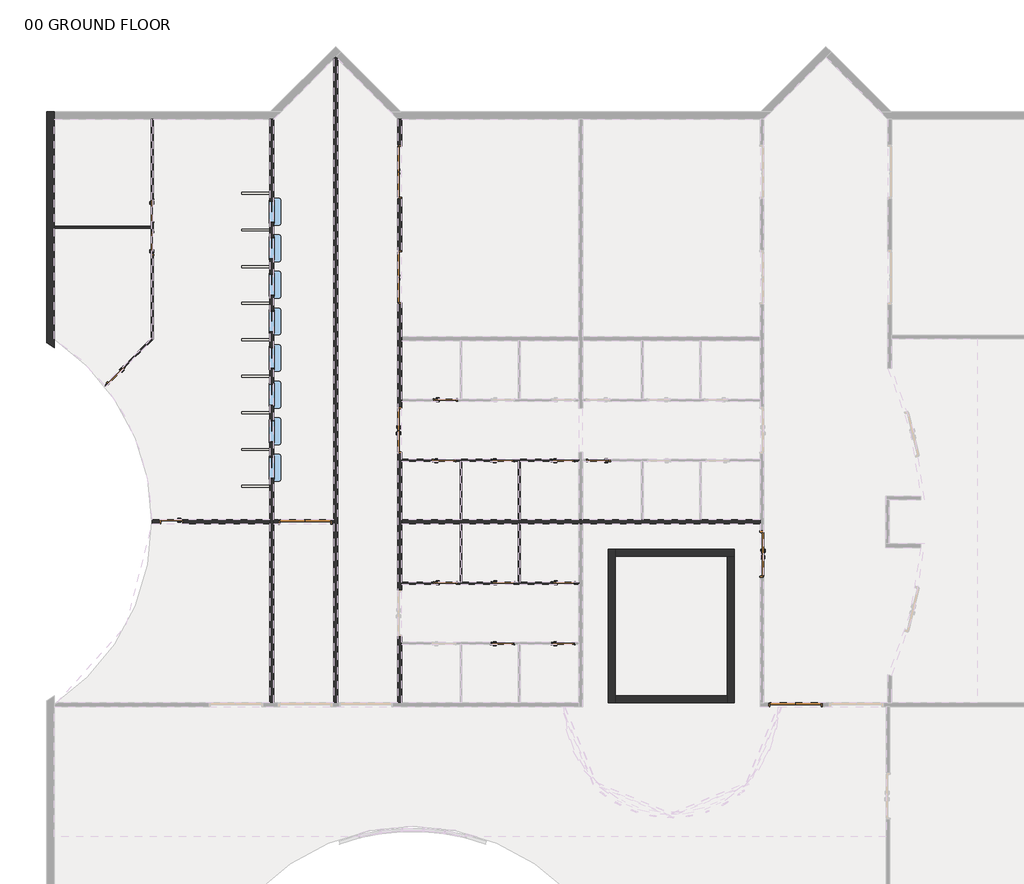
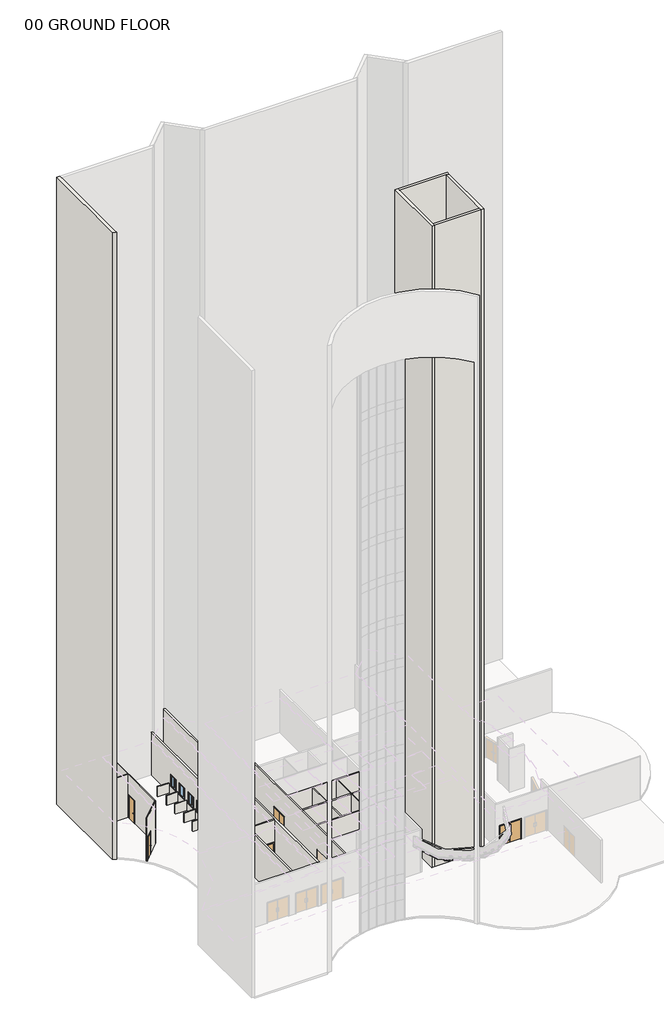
# One storey, part 13 of 33: 28 walls, 20 doors, 8 windows.
"""IFC4 building model written with IfcOpenShell, lengths in millimetres."""

from ifc_helpers import new_model, si_unit, frame, origin, origin_with_axes, place, context, project, spatial, polyline, circle_curve, outline, extrude, faceted_brep, transform, mapped, element, save
from ifc_brep_helpers import plane_surface, revolved_surface, advanced_brep
from components import door_2f250f70, door_b3a27a16, door_979b1b8c, door_f8b587be, door_b23f3af8, pass_thru_4x3_19d81059

model = new_model("IFC4")

# Units and contexts
model_context = context("Model", 3, world=origin())
ifc_project = project(units=[si_unit("LENGTHUNIT", "METRE", prefix="MILLI")], contexts=[model_context])

# Site, building, storey
site = spatial("IfcSite", under=ifc_project)
building = spatial("IfcBuilding", under=site)
storey = spatial("IfcBuildingStorey", under=building, Name="00 GROUND FLOOR", Elevation=0.0)

# Doors
placement = place(None, origin())
door_shape = door_2f250f70(model_context)
element("IfcDoor", 1, ObjectType="Door-Passage-Double-Flush : 72\" x 82\"", at=placement, inside=storey, context=model_context, shape_type="MappedRepresentation", body=[
    mapped(door_shape, transform((14556.3400257, 20729.575, 0.0), x_axis=(0.0, 1.0, 0.0), y_axis=(-1.0, 0.0, 0.0), z_axis=(0.0, 0.0, 1.0))),
])
element("IfcDoor", 2, ObjectType="Door-Passage-Double-Flush : 72\" x 82\"", at=placement, inside=storey, context=model_context, shape_type="MappedRepresentation", body=[
    mapped(door_shape, transform((29628.0650257, 15571.7875, 0.0), x_axis=(0.0, -1.0, 0.0), y_axis=(1.0, 0.0, 0.0), z_axis=(0.0, 0.0, 1.0))),
])
door_2_shape = door_b3a27a16(model_context)
element("IfcDoor", 3, ObjectType="Door-Passage-Double-Flush-Dbl_Acting : 84\" x 84\"", at=placement, inside=storey, context=model_context, shape_type="MappedRepresentation", body=[
    mapped(door_2_shape, transform((31033.0025257, 9293.225, 0.0), x_axis=(1.0, 0.0, 0.0), y_axis=(0.0, 1.0, 0.0), z_axis=(0.0, 0.0, 1.0))),
])
element("IfcDoor", 4, ObjectType="Door-Passage-Double-Flush-Dbl_Acting : 84\" x 84\"", at=placement, inside=storey, context=model_context, shape_type="MappedRepresentation", body=[
    mapped(door_2_shape, transform((14556.3400257, 31499.175, 0.0), x_axis=(0.0, 1.0, 0.0), y_axis=(-1.0, 0.0, 0.0), z_axis=(0.0, 0.0, 1.0))),
])
element("IfcDoor", 5, ObjectType="Door-Passage-Double-Flush-Dbl_Acting : 84\" x 84\"", at=placement, inside=storey, context=model_context, shape_type="MappedRepresentation", body=[
    mapped(door_2_shape, transform((14556.3400257, 27101.8, 0.0), x_axis=(0.0, 1.0, 0.0), y_axis=(-1.0, 0.0, 0.0), z_axis=(0.0, 0.0, 1.0))),
])
element("IfcDoor", 6, ObjectType="Door-Passage-Double-Flush-Dbl_Acting : 84\" x 84\"", at=placement, inside=storey, context=model_context, shape_type="MappedRepresentation", body=[
    mapped(door_2_shape, transform((10620.375, 16913.225, 0.0), x_axis=(1.0, 0.0, 0.0), y_axis=(0.0, 1.0, 0.0), z_axis=(0.0, 0.0, 1.0))),
])
door_3_shape = door_979b1b8c(model_context)
element("IfcDoor", 7, ObjectType="Door-Passage-Single-Flush : 36\" x 96\"", at=placement, inside=storey, context=model_context, shape_type="MappedRepresentation", body=[
    mapped(door_3_shape, transform((16456.5775257, 14357.35, 0.0), x_axis=(1.0, 0.0, 0.0), y_axis=(0.0, 1.0, 0.0), z_axis=(0.0, 0.0, 1.0))),
])
element("IfcDoor", 8, ObjectType="Door-Passage-Single-Flush : 36\" x 96\"", at=placement, inside=storey, context=model_context, shape_type="MappedRepresentation", body=[
    mapped(door_3_shape, transform((18855.2900257, 14357.35, 0.0), x_axis=(1.0, 0.0, 0.0), y_axis=(0.0, 1.0, 0.0), z_axis=(0.0, 0.0, 1.0))),
])
element("IfcDoor", 9, ObjectType="Door-Passage-Single-Flush : 36\" x 96\"", at=placement, inside=storey, context=model_context, shape_type="MappedRepresentation", body=[
    mapped(door_3_shape, transform((21373.0650257, 14357.35, 0.0), x_axis=(1.0, 0.0, 0.0), y_axis=(0.0, 1.0, 0.0), z_axis=(0.0, 0.0, 1.0))),
])
element("IfcDoor", 10, ObjectType="Door-Passage-Single-Flush : 36\" x 96\"", at=placement, inside=storey, context=model_context, shape_type="MappedRepresentation", body=[
    mapped(door_3_shape, transform((16456.5775257, 21977.35, 0.0), x_axis=(1.0, 0.0, 0.0), y_axis=(0.0, 1.0, 0.0), z_axis=(0.0, 0.0, 1.0))),
])
element("IfcDoor", 11, ObjectType="Door-Passage-Single-Flush : 36\" x 96\"", at=placement, inside=storey, context=model_context, shape_type="MappedRepresentation", body=[
    mapped(door_3_shape, transform((22830.3900257, 19481.8, 0.0), x_axis=(-1.0, 0.0, 0.0), y_axis=(0.0, -1.0, 0.0), z_axis=(0.0, 0.0, 1.0))),
])
element("IfcDoor", 12, ObjectType="Door-Passage-Single-Flush : 36\" x 96\"", at=placement, inside=storey, context=model_context, shape_type="MappedRepresentation", body=[
    mapped(door_3_shape, transform((2731.3607977, 23031.2061406, 0.0), x_axis=(-0.7071067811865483, -0.7071067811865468, 0.0), y_axis=(0.7071067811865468, -0.7071067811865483, 0.0), z_axis=(0.0, 0.0, 1.0))),
])
element("IfcDoor", 13, ObjectType="Door-Passage-Single-Flush : 36\" x 96\"", at=placement, inside=storey, context=model_context, shape_type="MappedRepresentation", body=[
    mapped(door_3_shape, transform((4255.0599132, 28508.325, 0.0), x_axis=(0.0, 1.0, 0.0), y_axis=(-1.0, 0.0, 0.0), z_axis=(0.0, 0.0, 1.0))),
])
door_4_shape = door_f8b587be(model_context)
element("IfcDoor", 14, ObjectType="Door-Passage-Single-Flush : 36\" x 96\"", at=placement, inside=storey, context=model_context, shape_type="MappedRepresentation", body=[
    mapped(door_4_shape, transform((18836.2400257, 11861.8, 0.0), x_axis=(1.0, 0.0, 0.0), y_axis=(0.0, 1.0, 0.0), z_axis=(0.0, 0.0, 1.0))),
])
element("IfcDoor", 15, ObjectType="Door-Passage-Single-Flush : 36\" x 96\"", at=placement, inside=storey, context=model_context, shape_type="MappedRepresentation", body=[
    mapped(door_4_shape, transform((21354.0150257, 11861.8, 0.0), x_axis=(1.0, 0.0, 0.0), y_axis=(0.0, 1.0, 0.0), z_axis=(0.0, 0.0, 1.0))),
])
element("IfcDoor", 16, ObjectType="Door-Passage-Single-Flush : 36\" x 96\"", at=placement, inside=storey, context=model_context, shape_type="MappedRepresentation", body=[
    mapped(door_4_shape, transform((16405.7775257, 19481.8, 0.0), x_axis=(1.0, 0.0, 0.0), y_axis=(0.0, 1.0, 0.0), z_axis=(0.0, 0.0, 1.0))),
])
element("IfcDoor", 17, ObjectType="Door-Passage-Single-Flush : 36\" x 96\"", at=placement, inside=storey, context=model_context, shape_type="MappedRepresentation", body=[
    mapped(door_4_shape, transform((18836.2400257, 19481.8, 0.0), x_axis=(1.0, 0.0, 0.0), y_axis=(0.0, 1.0, 0.0), z_axis=(0.0, 0.0, 1.0))),
])
element("IfcDoor", 18, ObjectType="Door-Passage-Single-Flush : 36\" x 96\"", at=placement, inside=storey, context=model_context, shape_type="MappedRepresentation", body=[
    mapped(door_4_shape, transform((21354.0150257, 19481.8, 0.0), x_axis=(1.0, 0.0, 0.0), y_axis=(0.0, 1.0, 0.0), z_axis=(0.0, 0.0, 1.0))),
])
element("IfcDoor", 19, ObjectType="Door-Passage-Single-Flush : 36\" x 96\"", at=placement, inside=storey, context=model_context, shape_type="MappedRepresentation", body=[
    mapped(door_4_shape, transform((4255.0599132, 29870.4, 0.0), x_axis=(0.0, -1.0, 0.0), y_axis=(1.0, 0.0, 0.0), z_axis=(0.0, 0.0, 1.0))),
])
door_5_shape = door_b23f3af8(model_context)
element("IfcDoor", 20, ObjectType="Door-Passage-Single-Flush : 36\" x 96\"", at=placement, inside=storey, context=model_context, shape_type="MappedRepresentation", body=[
    mapped(door_5_shape, transform((5054.6638195, 16913.225, 0.0), x_axis=(-1.0, 0.0, 0.0), y_axis=(0.0, -1.0, 0.0), z_axis=(0.0, 0.0, 1.0))),
])

# Walls
element("IfcWall", 21, ObjectType="Exterior - MAIN EIFS WITH LGMF", at=placement, inside=storey, context=model_context, shape_type="AdvancedBrep", body=[
    advanced_brep(
    [(155.575, 24163.2552195, 0.0), (155.575, 24539.575, 0.0), (155.575, 29149.675, 0.0), (155.575, 29229.05, 0.0), (155.575, 33683.575, 0.0), (155.575, 33994.725, 0.0), (155.575, 33994.725, 66446.4), (155.575, 33683.575, 66446.4), (155.575, 24539.575, 66446.4), (155.575, 24163.2552195, 66446.4), (-155.575, 24370.7176416, 0.0), (-155.575, 24370.7176416, 66446.4), (-155.575, 33994.725, 66446.4), (-155.575, 33994.725, 0.0)],
    [
        (0, 1),
        (1, 2),
        (2, 3),
        (3, 4),
        (4, 5),
        (5, 6),
        (6, 7),
        (7, 8),
        (8, 9),
        (9, 0),
        (10, 11),
        (11, 12),
        (12, 13),
        (13, 10),
        (0, 10, circle_curve(frame((-4898.9611805, 16919.575, 0.0), z_axis=(0.0, 0.0, 1.0), x_axis=(1.0, 0.0, 0.0)), 8832.85)),
        (13, 5),
        (6, 12),
        (11, 9, circle_curve(frame((-4898.9611805, 16919.575, 66446.4), z_axis=(0.0, 0.0, -1.0), x_axis=(1.0, 0.0, 0.0)), 8832.85)),
    ],
    [
        plane_surface(frame((155.575, 24539.575, 0.0), z_axis=(1.0, 0.0, 0.0), x_axis=(0.0, 1.0, 0.0))),
        plane_surface(frame((-155.575, 24539.575, 0.0), z_axis=(-1.0, 0.0, 0.0), x_axis=(0.0, -1.0, 0.0))),
        plane_surface(frame((155.575, 24455.6192762, 0.0), z_axis=(0.0, 0.0, -1.0), x_axis=(-1.0, 0.0, 0.0))),
        plane_surface(frame((155.575, 33839.15, 66446.4), z_axis=(0.0, 0.0, 1.0), x_axis=(-1.0, 0.0, 0.0))),
        plane_surface(frame((155.575, 33994.725, 0.0), z_axis=(0.0, 1.0, 0.0), x_axis=(-1.0, 0.0, 0.0))),
        revolved_surface(polyline([(3933.8888195, 16919.575, 0.0), (3933.8888195, 16919.575, 66446.4)]), (-4898.9611805, 16919.575, 0.0), (0.0, 0.0, -1.0)),
    ],
    [
        (0, [[1, 2, 3, 4, 5, 6, 7, 8, 9, 10]]),
        (1, [[11, 12, 13, 14]]),
        (2, [[-5, -4, -3, -2, -1, 15, -14, 16]]),
        (3, [[-9, -8, -7, 17, -12, 18]]),
        (4, [[-6, -16, -13, -17]]),
        (5, [[-10, -18, -11, -15]]),
    ],
),
])
element("IfcWall", 22, ObjectType="Generic - 12\" Masonry", at=placement, inside=storey, context=model_context, shape_type="Brep", body=[
    faceted_brep([(23241.5525257, 15770.225, 0.0), (23241.5525257, 9377.3625, 0.0), (23241.5525257, 9377.3625, 67970.4), (23241.5525257, 15770.225, 67970.4), (23536.8275257, 15770.225, 0.0), (23536.8275257, 15770.225, 67970.4), (23536.8275257, 15474.95, 67970.4), (23536.8275257, 9672.6375, 67970.4), (23536.8275257, 9377.3625, 67970.4), (23536.8275257, 9377.3625, 0.0), (23536.8275257, 9672.6375, 0.0), (23536.8275257, 15474.95, 0.0)], [[[0, 1, 2, 3]], [[4, 5, 6, 7, 8, 9, 10, 11]], [[1, 0, 4, 11, 10, 9]], [[3, 2, 8, 7, 6, 5]], [[1, 9, 8, 2]], [[0, 3, 5, 4]]]),
])
element("IfcWall", 23, ObjectType="Generic - 12\" Masonry", at=placement, inside=storey, context=model_context, shape_type="Brep", body=[
    faceted_brep([(28485.0650257, 15770.225, 0.0), (23536.8275257, 15770.225, 0.0), (23536.8275257, 15770.225, 67970.4), (28485.0650257, 15770.225, 67970.4), (28485.0650257, 15474.95, 0.0), (28485.0650257, 15474.95, 67970.4), (28189.7900257, 15474.95, 67970.4), (23536.8275257, 15474.95, 67970.4), (23536.8275257, 15474.95, 0.0), (28189.7900257, 15474.95, 0.0)], [[[0, 1, 2, 3]], [[4, 5, 6, 7, 8, 9]], [[1, 0, 4, 9, 8]], [[3, 2, 7, 6, 5]], [[2, 1, 8, 7]], [[0, 3, 5, 4]]]),
])
element("IfcWall", 24, ObjectType="Generic - 12\" Masonry", at=placement, inside=storey, context=model_context, shape_type="Brep", body=[
    faceted_brep([(28485.0650257, 9377.3625, 67970.4), (28485.0650257, 9377.3625, 0.0), (28485.0650257, 15474.95, 0.0), (28485.0650257, 15474.95, 67970.4), (28189.7900257, 9377.3625, 0.0), (28189.7900257, 9377.3625, 67970.4), (28189.7900257, 9672.6375, 67970.4), (28189.7900257, 15474.95, 67970.4), (28189.7900257, 15474.95, 0.0), (28189.7900257, 9672.6375, 0.0)], [[[0, 1, 2, 3]], [[4, 5, 6, 7, 8, 9]], [[2, 1, 4, 9, 8]], [[0, 3, 7, 6, 5]], [[0, 5, 4, 1]], [[3, 2, 8, 7]]]),
])
element("IfcWall", 25, ObjectType="Generic - 12\" Masonry", at=placement, inside=storey, context=model_context, shape_type="SweptSolid", body=[
    extrude(outline(polyline([(23536.8275257, 9672.6375), (28189.7900257, 9672.6375), (28189.7900257, 9377.3625), (23536.8275257, 9377.3625), (23536.8275257, 9672.6375)])), origin_with_axes(), (0.0, 0.0, 1.0), 67970.4),
])
element("IfcWall", 26, ObjectType="SYR_INT_ONE_HOUR", at=placement, inside=storey, context=model_context, shape_type="SweptSolid", body=[
    extrude(outline(polyline([(17066.1775257, 14403.3875), (17066.1775257, 16841.7875), (17145.5525257, 16841.7875), (17145.5525257, 14403.3875), (17066.1775257, 14403.3875)])), origin_with_axes(), (0.0, 0.0, 1.0), 4572.0),
])
element("IfcWall", 27, ObjectType="SYR_INT_ONE_HOUR", at=placement, inside=storey, context=model_context, shape_type="Brep", body=[
    faceted_brep([(14627.7775257, 14403.3875, 4572.0), (17066.1775257, 14403.3875, 4572.0), (17145.5525257, 14403.3875, 4572.0), (19496.6400257, 14403.3875, 4572.0), (19576.0150257, 14403.3875, 4572.0), (22014.4150257, 14403.3875, 4572.0), (22014.4150257, 14403.3875, 0.0), (21862.0150257, 14403.3875, 0.0), (21862.0150257, 14403.3875, 2470.15), (20884.1150257, 14403.3875, 2470.15), (20884.1150257, 14403.3875, 0.0), (19576.0150257, 14403.3875, 0.0), (19496.6400257, 14403.3875, 0.0), (19344.2400257, 14403.3875, 0.0), (19344.2400257, 14403.3875, 2470.15), (18366.3400257, 14403.3875, 2470.15), (18366.3400257, 14403.3875, 0.0), (17145.5525257, 14403.3875, 0.0), (17066.1775257, 14403.3875, 0.0), (16945.5275257, 14403.3875, 0.0), (16945.5275257, 14403.3875, 2470.15), (15967.6275257, 14403.3875, 2470.15), (15967.6275257, 14403.3875, 0.0), (14627.7775257, 14403.3875, 0.0), (22014.4150257, 14324.0125, 4572.0), (14627.7775257, 14324.0125, 4572.0), (14627.7775257, 14324.0125, 0.0), (15967.6275257, 14324.0125, 0.0), (15967.6275257, 14324.0125, 2470.15), (16945.5275257, 14324.0125, 2470.15), (16945.5275257, 14324.0125, 0.0), (18366.3400257, 14324.0125, 0.0), (18366.3400257, 14324.0125, 2470.15), (19344.2400257, 14324.0125, 2470.15), (19344.2400257, 14324.0125, 0.0), (20884.1150257, 14324.0125, 0.0), (20884.1150257, 14324.0125, 2470.15), (21862.0150257, 14324.0125, 2470.15), (21862.0150257, 14324.0125, 0.0), (22014.4150257, 14324.0125, 0.0)], [[[0, 1, 2, 3, 4, 5, 6, 7, 8, 9, 10, 11, 12, 13, 14, 15, 16, 17, 18, 19, 20, 21, 22, 23]], [[24, 25, 26, 27, 28, 29, 30, 31, 32, 33, 34, 35, 36, 37, 38, 39]], [[6, 39, 38, 7]], [[26, 23, 22, 27]], [[30, 19, 18, 17, 16, 31]], [[34, 13, 12, 11, 10, 35]], [[5, 4, 3, 2, 1, 0, 25, 24]], [[0, 23, 26, 25]], [[6, 5, 24, 39]], [[29, 20, 19, 30]], [[20, 29, 28, 21]], [[21, 28, 27, 22]], [[14, 13, 34, 33]], [[15, 14, 33, 32]], [[16, 15, 32, 31]], [[37, 8, 7, 38]], [[8, 37, 36, 9]], [[9, 36, 35, 10]]]),
])
element("IfcWall", 28, ObjectType="SYR_INT_ONE_HOUR", at=placement, inside=storey, context=model_context, shape_type="SweptSolid", body=[
    extrude(outline(polyline([(19576.0150257, 16841.7875), (19576.0150257, 14403.3875), (19496.6400257, 14403.3875), (19496.6400257, 16841.7875), (19576.0150257, 16841.7875)])), origin_with_axes(), (0.0, 0.0, 1.0), 4572.0),
])
element("IfcWall", 29, ObjectType="SYR_INT_ONE_HOUR", at=placement, inside=storey, context=model_context, shape_type="SweptSolid", body=[
    extrude(outline(polyline([(19576.0150257, 19435.7625), (19576.0150257, 16997.3625), (19496.6400257, 16997.3625), (19496.6400257, 19435.7625), (19576.0150257, 19435.7625)])), origin_with_axes(), (0.0, 0.0, 1.0), 4572.0),
])
element("IfcWall", 30, ObjectType="SYR_INT_ONE_HOUR", at=placement, inside=storey, context=model_context, shape_type="Brep", body=[
    faceted_brep([(14627.7775257, 19515.1375, 4572.0), (22014.4150257, 19515.1375, 4572.0), (22014.4150257, 19515.1375, 0.0), (21842.9650257, 19515.1375, 0.0), (21842.9650257, 19515.1375, 2470.15), (20865.0650257, 19515.1375, 2470.15), (20865.0650257, 19515.1375, 0.0), (19325.1900257, 19515.1375, 0.0), (19325.1900257, 19515.1375, 2470.15), (18347.2900257, 19515.1375, 2470.15), (18347.2900257, 19515.1375, 0.0), (16894.7275257, 19515.1375, 0.0), (16894.7275257, 19515.1375, 2470.15), (15916.8275257, 19515.1375, 2470.15), (15916.8275257, 19515.1375, 0.0), (14627.7775257, 19515.1375, 0.0), (22014.4150257, 19435.7625, 4572.0), (19576.0150257, 19435.7625, 4572.0), (19496.6400257, 19435.7625, 4572.0), (17145.5525257, 19435.7625, 4572.0), (17066.1775257, 19435.7625, 4572.0), (14627.7775257, 19435.7625, 4572.0), (14627.7775257, 19435.7625, 0.0), (15916.8275257, 19435.7625, 0.0), (15916.8275257, 19435.7625, 2470.15), (16894.7275257, 19435.7625, 2470.15), (16894.7275257, 19435.7625, 0.0), (17066.1775257, 19435.7625, 0.0), (17145.5525257, 19435.7625, 0.0), (18347.2900257, 19435.7625, 0.0), (18347.2900257, 19435.7625, 2470.15), (19325.1900257, 19435.7625, 2470.15), (19325.1900257, 19435.7625, 0.0), (19496.6400257, 19435.7625, 0.0), (19576.0150257, 19435.7625, 0.0), (20865.0650257, 19435.7625, 0.0), (20865.0650257, 19435.7625, 2470.15), (21842.9650257, 19435.7625, 2470.15), (21842.9650257, 19435.7625, 0.0), (22014.4150257, 19435.7625, 0.0)], [[[0, 1, 2, 3, 4, 5, 6, 7, 8, 9, 10, 11, 12, 13, 14, 15]], [[16, 17, 18, 19, 20, 21, 22, 23, 24, 25, 26, 27, 28, 29, 30, 31, 32, 33, 34, 35, 36, 37, 38, 39]], [[15, 14, 23, 22]], [[26, 11, 10, 29, 28, 27]], [[32, 7, 6, 35, 34, 33]], [[2, 39, 38, 3]], [[1, 0, 21, 20, 19, 18, 17, 16]], [[25, 12, 11, 26]], [[12, 25, 24, 13]], [[13, 24, 23, 14]], [[31, 8, 7, 32]], [[8, 31, 30, 9]], [[9, 30, 29, 10]], [[37, 4, 3, 38]], [[4, 37, 36, 5]], [[5, 36, 35, 6]], [[0, 15, 22, 21]], [[2, 1, 16, 39]]]),
])
element("IfcWall", 31, ObjectType="SYR_INT_ONE_HOUR", at=placement, inside=storey, context=model_context, shape_type="SweptSolid", body=[
    extrude(outline(polyline([(17066.1775257, 16997.3625), (17066.1775257, 19435.7625), (17145.5525257, 19435.7625), (17145.5525257, 16997.3625), (17066.1775257, 16997.3625)])), origin_with_axes(), (0.0, 0.0, 1.0), 4572.0),
])
element("IfcWall", 32, ObjectType="SYR_INT_ONE_HOUR", at=placement, inside=storey, context=model_context, shape_type="SweptSolid", body=[
    extrude(outline(polyline([(7979.2710938, 18443.575), (9144.0, 18443.575), (9144.0, 18364.2), (7979.2710938, 18364.2), (7979.2710938, 18443.575)])), origin_with_axes(), (0.0, 0.0, 1.0), 1066.8),
])
element("IfcWall", 33, ObjectType="SYR_INT_ONE_HOUR", at=placement, inside=storey, context=model_context, shape_type="SweptSolid", body=[
    extrude(outline(polyline([(7979.2710938, 19967.575), (9144.0, 19967.575), (9144.0, 19888.2), (7979.2710938, 19888.2), (7979.2710938, 19967.575)])), origin_with_axes(), (0.0, 0.0, 1.0), 1066.8),
])
element("IfcWall", 34, ObjectType="SYR_INT_ONE_HOUR", at=placement, inside=storey, context=model_context, shape_type="SweptSolid", body=[
    extrude(outline(polyline([(7979.2710938, 21491.575), (9144.0, 21491.575), (9144.0, 21412.2), (7979.2710938, 21412.2), (7979.2710938, 21491.575)])), origin_with_axes(), (0.0, 0.0, 1.0), 1066.8),
])
element("IfcWall", 35, ObjectType="SYR_INT_ONE_HOUR", at=placement, inside=storey, context=model_context, shape_type="SweptSolid", body=[
    extrude(outline(polyline([(7979.2710938, 23015.575), (9144.0, 23015.575), (9144.0, 22936.2), (7979.2710938, 22936.2), (7979.2710938, 23015.575)])), origin_with_axes(), (0.0, 0.0, 1.0), 1066.8),
])
element("IfcWall", 36, ObjectType="SYR_INT_ONE_HOUR", at=placement, inside=storey, context=model_context, shape_type="SweptSolid", body=[
    extrude(outline(polyline([(7979.2710938, 24539.575), (9144.0, 24539.575), (9144.0, 24460.2), (7979.2710938, 24460.2), (7979.2710938, 24539.575)])), origin_with_axes(), (0.0, 0.0, 1.0), 1066.8),
])
element("IfcWall", 37, ObjectType="SYR_INT_ONE_HOUR", at=placement, inside=storey, context=model_context, shape_type="SweptSolid", body=[
    extrude(outline(polyline([(7979.2710938, 26063.575), (9144.0, 26063.575), (9144.0, 25984.2), (7979.2710938, 25984.2), (7979.2710938, 26063.575)])), origin_with_axes(), (0.0, 0.0, 1.0), 1066.8),
])
element("IfcWall", 38, ObjectType="SYR_INT_ONE_HOUR", at=placement, inside=storey, context=model_context, shape_type="SweptSolid", body=[
    extrude(outline(polyline([(7979.2710938, 27587.575), (9144.0, 27587.575), (9144.0, 27508.2), (7979.2710938, 27508.2), (7979.2710938, 27587.575)])), origin_with_axes(), (0.0, 0.0, 1.0), 1066.8),
])
element("IfcWall", 39, ObjectType="SYR_INT_ONE_HOUR", at=placement, inside=storey, context=model_context, shape_type="SweptSolid", body=[
    extrude(outline(polyline([(7979.2710938, 29111.575), (9144.0, 29111.575), (9144.0, 29032.2), (7979.2710938, 29032.2), (7979.2710938, 29111.575)])), origin_with_axes(), (0.0, 0.0, 1.0), 1066.8),
])
element("IfcWall", 40, ObjectType="SYR_INT_ONE_HOUR", at=placement, inside=storey, context=model_context, shape_type="SweptSolid", body=[
    extrude(outline(polyline([(7979.2710938, 30635.575), (9144.0, 30635.575), (9144.0, 30556.2), (7979.2710938, 30556.2), (7979.2710938, 30635.575)])), origin_with_axes(), (0.0, 0.0, 1.0), 1066.8),
])
element("IfcWall", 41, ObjectType="SYR_INT_ONE_HOUR", at=placement, inside=storey, context=model_context, shape_type="Brep", body=[
    faceted_brep([(4209.0224132, 24443.7608992, 4572.0), (4209.0224132, 24556.0141008, 4572.0), (4209.0224132, 29149.675, 4572.0), (4209.0224132, 29229.05, 4572.0), (4209.0224132, 33683.575, 4572.0), (4209.0224132, 33683.575, 0.0), (4209.0224132, 30359.35, 0.0), (4209.0224132, 30359.35, 2470.15), (4209.0224132, 29381.45, 2470.15), (4209.0224132, 29381.45, 0.0), (4209.0224132, 29229.05, 0.0), (4209.0224132, 29149.675, 0.0), (4209.0224132, 28997.275, 0.0), (4209.0224132, 28997.275, 2470.15), (4209.0224132, 28019.375, 2470.15), (4209.0224132, 28019.375, 0.0), (4209.0224132, 24556.0141008, 0.0), (4209.0224132, 24443.7608992, 0.0), (4288.3974132, 33683.575, 4572.0), (4288.3974132, 24523.1358992, 4572.0), (4288.3974132, 24523.1358992, 0.0), (4288.3974132, 28019.375, 0.0), (4288.3974132, 28019.375, 2470.15), (4288.3974132, 28997.275, 2470.15), (4288.3974132, 28997.275, 0.0), (4288.3974132, 29381.45, 0.0), (4288.3974132, 29381.45, 2470.15), (4288.3974132, 30359.35, 2470.15), (4288.3974132, 30359.35, 0.0), (4288.3974132, 33683.575, 0.0)], [[[0, 1, 2, 3, 4, 5, 6, 7, 8, 9, 10, 11, 12, 13, 14, 15, 16, 17]], [[18, 19, 20, 21, 22, 23, 24, 25, 26, 27, 28, 29]], [[20, 17, 16, 15, 21]], [[5, 29, 28, 6]], [[24, 12, 11, 10, 9, 25]], [[4, 3, 2, 1, 0, 19, 18]], [[0, 17, 20, 19]], [[5, 4, 18, 29]], [[23, 13, 12, 24]], [[13, 23, 22, 14]], [[14, 22, 21, 15]], [[8, 26, 25, 9]], [[26, 8, 7, 27]], [[27, 7, 6, 28]]]),
])
element("IfcWall", 42, ObjectType="SYR_INT_ONE_HOUR", at=placement, inside=storey, context=model_context, shape_type="AdvancedBrep", body=[
    advanced_brep(
    [(2260.5955581, 22607.5872456, 4572.0), (4209.0224132, 24556.0141008, 4572.0), (4209.0224132, 24556.0141008, 0.0), (3053.527486, 23400.5191735, 0.0), (3053.527486, 23400.5191735, 2470.15), (2362.0477647, 22709.0394522, 2470.15), (2362.0477647, 22709.0394522, 0.0), (2260.5955581, 22607.5872456, 0.0), (4209.0224132, 24443.7608992, 4572.0), (2310.04482, 22544.783306, 4572.0), (2310.04482, 22544.783306, 0.0), (2418.1743655, 22652.9128515, 0.0), (2418.1743655, 22652.9128515, 2470.15), (3109.6540868, 23344.3925728, 2470.15), (3109.6540868, 23344.3925728, 0.0), (4209.0224132, 24443.7608992, 0.0)],
    [
        (0, 1),
        (1, 2),
        (2, 3),
        (3, 4),
        (4, 5),
        (5, 6),
        (6, 7),
        (7, 0),
        (8, 9),
        (9, 10),
        (10, 11),
        (11, 12),
        (12, 13),
        (13, 14),
        (14, 15),
        (15, 8),
        (2, 15),
        (14, 3),
        (10, 7, circle_curve(frame((-4898.9611805, 16919.575, 0.0), z_axis=(0.0, 0.0, 1.0), x_axis=(1.0, 0.0, 0.0)), 9144.0)),
        (6, 11),
        (0, 9, circle_curve(frame((-4898.9611805, 16919.575, 4572.0), z_axis=(0.0, 0.0, -1.0), x_axis=(1.0, 0.0, 0.0)), 9144.0)),
        (8, 1),
        (5, 12),
        (4, 13),
    ],
    [
        plane_surface(frame((4220.6466129, 24567.6383004, 0.0), z_axis=(-0.7071067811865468, 0.7071067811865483, 0.0), x_axis=(-0.7071067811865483, -0.7071067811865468, 0.0))),
        plane_surface(frame((4276.7732136, 24511.5116996, 0.0), z_axis=(0.7071067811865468, -0.7071067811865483, 0.0), x_axis=(0.7071067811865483, 0.7071067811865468, 0.0))),
        plane_surface(frame((4220.6466129, 24567.6383004, 0.0), z_axis=(0.0, 0.0, -1.0), x_axis=(0.7071067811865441, -0.7071067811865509, 0.0))),
        plane_surface(frame((2146.5216178, 22493.5133053, 4572.0), z_axis=(0.0, 0.0, 1.0000000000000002), x_axis=(0.7071067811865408, -0.7071067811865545, 0.0))),
        plane_surface(frame((4209.0224132, 33778.5769531, 0.0), z_axis=(1.0, 0.0, 0.0), x_axis=(0.0, -1.0, 0.0))),
        plane_surface(frame((1284.4170302, 23786.6701867, 0.0), z_axis=(0.7071067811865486, 0.7071067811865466, 0.0), x_axis=(0.7071067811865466, -0.7071067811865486, 0.0))),
        plane_surface(frame((1284.4170302, 23786.6701867, 2470.15), z_axis=(0.0, 0.0, -1.0), x_axis=(0.7071067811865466, -0.7071067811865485, 0.0))),
        plane_surface(frame((1975.8967515, 24478.1499081, 2470.15), z_axis=(-0.7071067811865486, -0.7071067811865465, 0.0), x_axis=(0.7071067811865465, -0.7071067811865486, 0.0))),
        revolved_surface(polyline([(4245.0388195, 16919.575, 4572.0), (4245.0388195, 16919.575, 0.0)]), (-4898.9611805, 16919.575, 0.0), (0.0, 0.0, 1.0)),
    ],
    [
        (0, [[1, 2, 3, 4, 5, 6, 7, 8]]),
        (1, [[9, 10, 11, 12, 13, 14, 15, 16]]),
        (2, [[17, -15, 18, -3]]),
        (2, [[19, -7, 20, -11]]),
        (3, [[-1, 21, -9, 22]]),
        (4, [[-2, -22, -16, -17]]),
        (5, [[23, -12, -20, -6]]),
        (6, [[-23, -5, 24, -13]]),
        (7, [[-24, -4, -18, -14]]),
        (8, [[-8, -19, -10, -21]]),
    ],
),
])
element("IfcWall", 43, ObjectType="SYR_INT_ONE_HOUR", at=placement, inside=storey, context=model_context, shape_type="SweptSolid", body=[
    extrude(outline(polyline([(155.575, 29229.05), (4209.0224132, 29229.05), (4209.0224132, 29149.675), (155.575, 29149.675), (155.575, 29229.05)])), origin_with_axes(), (0.0, 0.0, 1.0), 4572.0),
])
element("IfcWall", 44, ObjectType="SYR_INT_TWO_HOUR", at=placement, inside=storey, context=model_context, shape_type="Brep", body=[
    faceted_brep([(9144.0, 33683.575, 0.0), (9144.0, 30635.575, 0.0), (9144.0, 30556.2, 0.0), (9144.0, 29111.575, 0.0), (9144.0, 29032.2, 0.0), (9144.0, 27587.575, 0.0), (9144.0, 27508.2, 0.0), (9144.0, 26063.575, 0.0), (9144.0, 25984.2, 0.0), (9144.0, 24539.575, 0.0), (9144.0, 24460.2, 0.0), (9144.0, 23015.575, 0.0), (9144.0, 22936.2, 0.0), (9144.0, 21491.575, 0.0), (9144.0, 21412.2, 0.0), (9144.0, 19967.575, 0.0), (9144.0, 19888.2, 0.0), (9144.0, 18443.575, 0.0), (9144.0, 18364.2, 0.0), (9144.0, 16997.3625, 0.0), (9144.0, 16841.7875, 0.0), (9144.0, 9377.3625, 0.0), (9144.0, 9377.3625, 4572.0), (9144.0, 16841.7875, 4572.0), (9144.0, 16997.3625, 4572.0), (9144.0, 33683.575, 4572.0), (9144.0, 19623.0875, 2133.6), (9144.0, 18708.6875, 2133.6), (9144.0, 18708.6875, 914.4), (9144.0, 19623.0875, 914.4), (9144.0, 21147.0875, 2133.6), (9144.0, 20232.6875, 2133.6), (9144.0, 20232.6875, 914.4), (9144.0, 21147.0875, 914.4), (9144.0, 22671.0875, 2133.6), (9144.0, 21756.6875, 2133.6), (9144.0, 21756.6875, 914.4), (9144.0, 22671.0875, 914.4), (9144.0, 24195.0875, 2133.6), (9144.0, 23280.6875, 2133.6), (9144.0, 23280.6875, 914.4), (9144.0, 24195.0875, 914.4), (9144.0, 25719.0875, 2133.6), (9144.0, 24804.6875, 2133.6), (9144.0, 24804.6875, 914.4), (9144.0, 25719.0875, 914.4), (9144.0, 27243.0875, 2133.6), (9144.0, 26328.6875, 2133.6), (9144.0, 26328.6875, 914.4), (9144.0, 27243.0875, 914.4), (9144.0, 28767.0875, 2133.6), (9144.0, 27852.6875, 2133.6), (9144.0, 27852.6875, 914.4), (9144.0, 28767.0875, 914.4), (9144.0, 30291.0875, 2133.6), (9144.0, 29376.6875, 2133.6), (9144.0, 29376.6875, 914.4), (9144.0, 30291.0875, 914.4), (9299.575, 33683.575, 0.0), (9299.575, 33683.575, 4572.0), (9299.575, 16997.3625, 4572.0), (9299.575, 16841.7875, 4572.0), (9299.575, 9377.3625, 4572.0), (9299.575, 9377.3625, 0.0), (9299.575, 16841.7875, 0.0), (9299.575, 16997.3625, 0.0), (9299.575, 19623.0875, 2133.6), (9299.575, 19623.0875, 914.4), (9299.575, 18708.6875, 914.4), (9299.575, 18708.6875, 2133.6), (9299.575, 21147.0875, 2133.6), (9299.575, 21147.0875, 914.4), (9299.575, 20232.6875, 914.4), (9299.575, 20232.6875, 2133.6), (9299.575, 22671.0875, 2133.6), (9299.575, 22671.0875, 914.4), (9299.575, 21756.6875, 914.4), (9299.575, 21756.6875, 2133.6), (9299.575, 24195.0875, 2133.6), (9299.575, 24195.0875, 914.4), (9299.575, 23280.6875, 914.4), (9299.575, 23280.6875, 2133.6), (9299.575, 25719.0875, 2133.6), (9299.575, 25719.0875, 914.4), (9299.575, 24804.6875, 914.4), (9299.575, 24804.6875, 2133.6), (9299.575, 27243.0875, 2133.6), (9299.575, 27243.0875, 914.4), (9299.575, 26328.6875, 914.4), (9299.575, 26328.6875, 2133.6), (9299.575, 28767.0875, 2133.6), (9299.575, 28767.0875, 914.4), (9299.575, 27852.6875, 914.4), (9299.575, 27852.6875, 2133.6), (9299.575, 30291.0875, 2133.6), (9299.575, 30291.0875, 914.4), (9299.575, 29376.6875, 914.4), (9299.575, 29376.6875, 2133.6)], [[[0, 1, 2, 3, 4, 5, 6, 7, 8, 9, 10, 11, 12, 13, 14, 15, 16, 17, 18, 19, 20, 21, 22, 23, 24, 25], [26, 27, 28, 29], [30, 31, 32, 33], [34, 35, 36, 37], [38, 39, 40, 41], [42, 43, 44, 45], [46, 47, 48, 49], [50, 51, 52, 53], [54, 55, 56, 57]], [[58, 59, 60, 61, 62, 63, 64, 65], [66, 67, 68, 69], [70, 71, 72, 73], [74, 75, 76, 77], [78, 79, 80, 81], [82, 83, 84, 85], [86, 87, 88, 89], [90, 91, 92, 93], [94, 95, 96, 97]], [[21, 20, 19, 18, 17, 16, 15, 14, 13, 12, 11, 10, 9, 8, 7, 6, 5, 4, 3, 2, 1, 0, 58, 65, 64, 63]], [[25, 24, 23, 22, 62, 61, 60, 59]], [[22, 21, 63, 62]], [[67, 66, 26, 29]], [[68, 67, 29, 28]], [[69, 68, 28, 27]], [[66, 69, 27, 26]], [[71, 70, 30, 33]], [[72, 71, 33, 32]], [[73, 72, 32, 31]], [[70, 73, 31, 30]], [[75, 74, 34, 37]], [[76, 75, 37, 36]], [[77, 76, 36, 35]], [[74, 77, 35, 34]], [[79, 78, 38, 41]], [[80, 79, 41, 40]], [[81, 80, 40, 39]], [[78, 81, 39, 38]], [[83, 82, 42, 45]], [[84, 83, 45, 44]], [[85, 84, 44, 43]], [[82, 85, 43, 42]], [[87, 86, 46, 49]], [[88, 87, 49, 48]], [[89, 88, 48, 47]], [[86, 89, 47, 46]], [[91, 90, 50, 53]], [[92, 91, 53, 52]], [[93, 92, 52, 51]], [[90, 93, 51, 50]], [[95, 94, 54, 57]], [[96, 95, 57, 56]], [[97, 96, 56, 55]], [[94, 97, 55, 54]], [[0, 25, 59, 58]]]),
])
element("IfcWall", 45, ObjectType="SYR_INT_TWO_HOUR", at=placement, inside=storey, context=model_context, shape_type="Brep", body=[
    faceted_brep([(14472.2025257, 9377.3625, 4572.0), (14472.2025257, 33683.575, 4572.0), (14472.2025257, 33683.575, 0.0), (14472.2025257, 32616.775, 0.0), (14472.2025257, 32616.775, 2235.2), (14472.2025257, 30381.575, 2235.2), (14472.2025257, 30381.575, 0.0), (14472.2025257, 28219.4, 0.0), (14472.2025257, 28219.4, 2235.2), (14472.2025257, 25984.2, 2235.2), (14472.2025257, 25984.2, 0.0), (14472.2025257, 21694.775, 0.0), (14472.2025257, 21694.775, 2184.4), (14472.2025257, 19764.375, 2184.4), (14472.2025257, 19764.375, 0.0), (14472.2025257, 14074.775, 0.0), (14472.2025257, 14074.775, 2184.4), (14472.2025257, 12144.375, 2184.4), (14472.2025257, 12144.375, 0.0), (14472.2025257, 9377.3625, 0.0), (14627.7775257, 33683.575, 4572.0), (14627.7775257, 24617.3625, 4572.0), (14627.7775257, 24461.7875, 4572.0), (14627.7775257, 22023.3875, 4572.0), (14627.7775257, 21944.0125, 4572.0), (14627.7775257, 19515.1375, 4572.0), (14627.7775257, 19435.7625, 4572.0), (14627.7775257, 16997.3625, 4572.0), (14627.7775257, 16841.7875, 4572.0), (14627.7775257, 14403.3875, 4572.0), (14627.7775257, 14324.0125, 4572.0), (14627.7775257, 11895.1375, 4572.0), (14627.7775257, 11815.7625, 4572.0), (14627.7775257, 9377.3625, 4572.0), (14627.7775257, 9377.3625, 0.0), (14627.7775257, 11815.7625, 0.0), (14627.7775257, 11895.1375, 0.0), (14627.7775257, 12144.375, 0.0), (14627.7775257, 12144.375, 2184.4), (14627.7775257, 14074.775, 2184.4), (14627.7775257, 14074.775, 0.0), (14627.7775257, 14324.0125, 0.0), (14627.7775257, 14403.3875, 0.0), (14627.7775257, 16841.7875, 0.0), (14627.7775257, 16997.3625, 0.0), (14627.7775257, 19435.7625, 0.0), (14627.7775257, 19515.1375, 0.0), (14627.7775257, 19764.375, 0.0), (14627.7775257, 19764.375, 2184.4), (14627.7775257, 21694.775, 2184.4), (14627.7775257, 21694.775, 0.0), (14627.7775257, 21944.0125, 0.0), (14627.7775257, 22023.3875, 0.0), (14627.7775257, 24461.7875, 0.0), (14627.7775257, 24617.3625, 0.0), (14627.7775257, 25984.2, 0.0), (14627.7775257, 25984.2, 2235.2), (14627.7775257, 28219.4, 2235.2), (14627.7775257, 28219.4, 0.0), (14627.7775257, 30381.575, 0.0), (14627.7775257, 30381.575, 2235.2), (14627.7775257, 32616.775, 2235.2), (14627.7775257, 32616.775, 0.0), (14627.7775257, 33683.575, 0.0)], [[[0, 1, 2, 3, 4, 5, 6, 7, 8, 9, 10, 11, 12, 13, 14, 15, 16, 17, 18, 19]], [[20, 21, 22, 23, 24, 25, 26, 27, 28, 29, 30, 31, 32, 33, 34, 35, 36, 37, 38, 39, 40, 41, 42, 43, 44, 45, 46, 47, 48, 49, 50, 51, 52, 53, 54, 55, 56, 57, 58, 59, 60, 61, 62, 63]], [[34, 19, 18, 37, 36, 35]], [[40, 15, 14, 47, 46, 45, 44, 43, 42, 41]], [[50, 11, 10, 55, 54, 53, 52, 51]], [[3, 2, 63, 62]], [[6, 59, 58, 7]], [[1, 0, 33, 32, 31, 30, 29, 28, 27, 26, 25, 24, 23, 22, 21, 20]], [[0, 19, 34, 33]], [[39, 16, 15, 40]], [[16, 39, 38, 17]], [[17, 38, 37, 18]], [[49, 12, 11, 50]], [[12, 49, 48, 13]], [[13, 48, 47, 14]], [[61, 4, 3, 62]], [[4, 61, 60, 5]], [[5, 60, 59, 6]], [[57, 8, 7, 58]], [[8, 57, 56, 9]], [[9, 56, 55, 10]], [[2, 1, 20, 63]]]),
])
element("IfcWall", 46, ObjectType="SYR_INT_TWO_HOUR", at=placement, inside=storey, context=model_context, shape_type="Brep", body=[
    faceted_brep([(14627.7775257, 16841.7875, 0.0), (17066.1775257, 16841.7875, 0.0), (17145.5525257, 16841.7875, 0.0), (19496.6400257, 16841.7875, 0.0), (19576.0150257, 16841.7875, 0.0), (22014.4150257, 16841.7875, 0.0), (22169.9900257, 16841.7875, 0.0), (29556.6275257, 16841.7875, 0.0), (29556.6275257, 16841.7875, 4572.0), (22169.9900257, 16841.7875, 4572.0), (22014.4150257, 16841.7875, 4572.0), (19576.0150257, 16841.7875, 4572.0), (19496.6400257, 16841.7875, 4572.0), (17145.5525257, 16841.7875, 4572.0), (17066.1775257, 16841.7875, 4572.0), (14627.7775257, 16841.7875, 4572.0), (14627.7775257, 16997.3625, 0.0), (14627.7775257, 16997.3625, 4572.0), (17066.1775257, 16997.3625, 4572.0), (17145.5525257, 16997.3625, 4572.0), (19496.6400257, 16997.3625, 4572.0), (19576.0150257, 16997.3625, 4572.0), (22014.4150257, 16997.3625, 4572.0), (22169.9900257, 16997.3625, 4572.0), (24608.3900257, 16997.3625, 4572.0), (24687.7650257, 16997.3625, 4572.0), (27038.8525257, 16997.3625, 4572.0), (27118.2275257, 16997.3625, 4572.0), (29556.6275257, 16997.3625, 4572.0), (29556.6275257, 16997.3625, 0.0), (27118.2275257, 16997.3625, 0.0), (27038.8525257, 16997.3625, 0.0), (24687.7650257, 16997.3625, 0.0), (24608.3900257, 16997.3625, 0.0), (22169.9900257, 16997.3625, 0.0), (22014.4150257, 16997.3625, 0.0), (19576.0150257, 16997.3625, 0.0), (19496.6400257, 16997.3625, 0.0), (17145.5525257, 16997.3625, 0.0), (17066.1775257, 16997.3625, 0.0)], [[[0, 1, 2, 3, 4, 5, 6, 7, 8, 9, 10, 11, 12, 13, 14, 15]], [[16, 17, 18, 19, 20, 21, 22, 23, 24, 25, 26, 27, 28, 29, 30, 31, 32, 33, 34, 35, 36, 37, 38, 39]], [[7, 6, 5, 4, 3, 2, 1, 0, 16, 39, 38, 37, 36, 35, 34, 33, 32, 31, 30, 29]], [[15, 14, 13, 12, 11, 10, 9, 8, 28, 27, 26, 25, 24, 23, 22, 21, 20, 19, 18, 17]], [[0, 15, 17, 16]], [[8, 7, 29, 28]]]),
])
element("IfcWall", 47, ObjectType="SYR_INT_TWO_HOUR", at=placement, inside=storey, context=model_context, shape_type="Brep", body=[
    faceted_brep([(11963.6762629, 9377.3625, 0.0), (11963.6762629, 36192.1012629, 0.0), (11963.6762629, 36192.1012629, 4572.0), (11963.6762629, 9377.3625, 4572.0), (11808.1012629, 9377.3625, 0.0), (11808.1012629, 9377.3625, 4572.0), (11808.1012629, 16841.7875, 4572.0), (11808.1012629, 16997.3625, 4572.0), (11808.1012629, 36192.1012629, 4572.0), (11808.1012629, 36192.1012629, 0.0), (11808.1012629, 16997.3625, 0.0), (11808.1012629, 16841.7875, 0.0), (11885.8887629, 36269.8887629, 0.0), (11885.8887629, 36269.8887629, 4572.0)], [[[0, 1, 2, 3]], [[4, 5, 6, 7, 8, 9, 10, 11]], [[1, 0, 4, 11, 10, 9, 12]], [[3, 2, 13, 8, 7, 6, 5]], [[0, 3, 5, 4]], [[2, 1, 12, 13]], [[12, 9, 8, 13]]]),
])
element("IfcWall", 48, ObjectType="SYR_INT_TWO_HOUR", at=placement, inside=storey, context=model_context, shape_type="SolidModel", body=[
    faceted_brep([(11808.1012629, 16997.3625, 4572.0), (11808.1012629, 16997.3625, 0.0), (11737.975, 16997.3625, 0.0), (11737.975, 16997.3625, 2235.2), (9502.775, 16997.3625, 2235.2), (9502.775, 16997.3625, 0.0), (9299.575, 16997.3625, 0.0), (9299.575, 16997.3625, 4572.0), (11808.1012629, 16841.7875, 0.0), (11808.1012629, 16841.7875, 4572.0), (9299.575, 16841.7875, 4572.0), (9299.575, 16841.7875, 0.0), (9502.775, 16841.7875, 0.0), (9502.775, 16841.7875, 2235.2), (11737.975, 16841.7875, 2235.2), (11737.975, 16841.7875, 0.0)], [[[0, 1, 2, 3, 4, 5, 6, 7]], [[8, 9, 10, 11, 12, 13, 14, 15]], [[1, 8, 15, 2]], [[5, 12, 11, 6]], [[9, 0, 7, 10]], [[1, 0, 9, 8]], [[7, 6, 11, 10]], [[14, 3, 2, 15]], [[3, 14, 13, 4]], [[4, 13, 12, 5]]]),
    advanced_brep(
    [(4244.7079465, 16997.3625, 0.0), (4244.7079465, 16997.3625, 4572.0), (9144.0, 16997.3625, 4572.0), (9144.0, 16997.3625, 0.0), (5543.6138195, 16997.3625, 0.0), (5543.6138195, 16997.3625, 2470.15), (4565.7138195, 16997.3625, 2470.15), (4565.7138195, 16997.3625, 0.0), (4244.7079465, 16841.7875, 4572.0), (4244.7079465, 16841.7875, 0.0), (4565.7138195, 16841.7875, 0.0), (4565.7138195, 16841.7875, 2470.15), (5543.6138195, 16841.7875, 2470.15), (5543.6138195, 16841.7875, 0.0), (9144.0, 16841.7875, 0.0), (9144.0, 16841.7875, 4572.0)],
    [
        (0, 1),
        (1, 2),
        (2, 3),
        (3, 4),
        (4, 5),
        (5, 6),
        (6, 7),
        (7, 0),
        (8, 9),
        (9, 10),
        (10, 11),
        (11, 12),
        (12, 13),
        (13, 14),
        (14, 15),
        (15, 8),
        (9, 0, circle_curve(frame((-4898.9611805, 16919.575, 0.0), z_axis=(0.0, 0.0, 1.0), x_axis=(1.0, 0.0, 0.0)), 9144.0)),
        (7, 10),
        (13, 4),
        (3, 14),
        (1, 8, circle_curve(frame((-4898.9611805, 16919.575, 4572.0), z_axis=(0.0, 0.0, -1.0), x_axis=(1.0, 0.0, 0.0)), 9144.0)),
        (15, 2),
        (6, 11),
        (5, 12),
    ],
    [
        plane_surface(frame((9221.7875, 16997.3625, 0.0), z_axis=(0.0, 1.0, 0.0), x_axis=(-1.0, 0.0, 0.0))),
        plane_surface(frame((9221.7875, 16841.7875, 0.0), z_axis=(0.0, -1.0, 0.0), x_axis=(1.0, 0.0, 0.0))),
        plane_surface(frame((11885.8887629, 16997.3625, 0.0), z_axis=(0.0, 0.0, -1.0), x_axis=(0.0, -1.0, 0.0))),
        plane_surface(frame((4089.4638195, 16997.3625, 4572.0), z_axis=(0.0, 0.0, 1.0), x_axis=(0.0, -1.0, 0.0))),
        plane_surface(frame((9144.0, 33683.575, 0.0), z_axis=(1.0, 0.0, 0.0), x_axis=(0.0, -1.0, 0.0))),
        revolved_surface(polyline([(4245.0388195, 16919.575, 4572.0), (4245.0388195, 16919.575, 0.0)]), (-4898.9611805, 16919.575, 0.0), (0.0, 0.0, 1.0)),
        plane_surface(frame((4565.7138195, 18365.7875, 0.0), z_axis=(1.0, 0.0, 0.0), x_axis=(0.0, -1.0, 0.0))),
        plane_surface(frame((4565.7138195, 18365.7875, 2470.15), z_axis=(0.0, 0.0, -1.0), x_axis=(0.0, -1.0, 0.0))),
        plane_surface(frame((5543.6138195, 18365.7875, 2470.15), z_axis=(-1.0, 0.0, 0.0), x_axis=(0.0, -1.0, 0.0))),
    ],
    [
        (0, [[1, 2, 3, 4, 5, 6, 7, 8]]),
        (1, [[9, 10, 11, 12, 13, 14, 15, 16]]),
        (2, [[17, -8, 18, -10]]),
        (2, [[19, -4, 20, -14]]),
        (3, [[21, -16, 22, -2]]),
        (4, [[-3, -22, -15, -20]]),
        (5, [[-1, -17, -9, -21]]),
        (6, [[23, -11, -18, -7]]),
        (7, [[-23, -6, 24, -12]]),
        (8, [[-24, -5, -19, -13]]),
    ],
),
])

# Windows
pass_thru_4x3_shape = pass_thru_4x3_19d81059(model_context)
element("IfcWindow", 49, ObjectType="Pass thru : 4x3", at=placement, inside=storey, context=model_context, shape_type="MappedRepresentation", body=[
    mapped(pass_thru_4x3_shape, transform((9221.7875, 19165.8875, 0.0), x_axis=(0.0, 1.0, 0.0), y_axis=(-1.0, 0.0, 0.0), z_axis=(0.0, 0.0, 1.0))),
])
element("IfcWindow", 50, ObjectType="Pass thru : 4x3", at=placement, inside=storey, context=model_context, shape_type="MappedRepresentation", body=[
    mapped(pass_thru_4x3_shape, transform((9221.7875, 20689.8875, 0.0), x_axis=(0.0, 1.0, 0.0), y_axis=(-1.0, 0.0, 0.0), z_axis=(0.0, 0.0, 1.0))),
])
element("IfcWindow", 51, ObjectType="Pass thru : 4x3", at=placement, inside=storey, context=model_context, shape_type="MappedRepresentation", body=[
    mapped(pass_thru_4x3_shape, transform((9221.7875, 22213.8875, 0.0), x_axis=(0.0, 1.0, 0.0), y_axis=(-1.0, 0.0, 0.0), z_axis=(0.0, 0.0, 1.0))),
])
element("IfcWindow", 52, ObjectType="Pass thru : 4x3", at=placement, inside=storey, context=model_context, shape_type="MappedRepresentation", body=[
    mapped(pass_thru_4x3_shape, transform((9221.7875, 23737.8875, 0.0), x_axis=(0.0, 1.0, 0.0), y_axis=(-1.0, 0.0, 0.0), z_axis=(0.0, 0.0, 1.0))),
])
element("IfcWindow", 53, ObjectType="Pass thru : 4x3", at=placement, inside=storey, context=model_context, shape_type="MappedRepresentation", body=[
    mapped(pass_thru_4x3_shape, transform((9221.7875, 25261.8875, 0.0), x_axis=(0.0, 1.0, 0.0), y_axis=(-1.0, 0.0, 0.0), z_axis=(0.0, 0.0, 1.0))),
])
element("IfcWindow", 54, ObjectType="Pass thru : 4x3", at=placement, inside=storey, context=model_context, shape_type="MappedRepresentation", body=[
    mapped(pass_thru_4x3_shape, transform((9221.7875, 26785.8875, 0.0), x_axis=(0.0, 1.0, 0.0), y_axis=(-1.0, 0.0, 0.0), z_axis=(0.0, 0.0, 1.0))),
])
element("IfcWindow", 55, ObjectType="Pass thru : 4x3", at=placement, inside=storey, context=model_context, shape_type="MappedRepresentation", body=[
    mapped(pass_thru_4x3_shape, transform((9221.7875, 28309.8875, 0.0), x_axis=(0.0, 1.0, 0.0), y_axis=(-1.0, 0.0, 0.0), z_axis=(0.0, 0.0, 1.0))),
])
element("IfcWindow", 56, ObjectType="Pass thru : 4x3", at=placement, inside=storey, context=model_context, shape_type="MappedRepresentation", body=[
    mapped(pass_thru_4x3_shape, transform((9221.7875, 29833.8875, 0.0), x_axis=(0.0, 1.0, 0.0), y_axis=(-1.0, 0.0, 0.0), z_axis=(0.0, 0.0, 1.0))),
])

save(model, "model.ifc")
